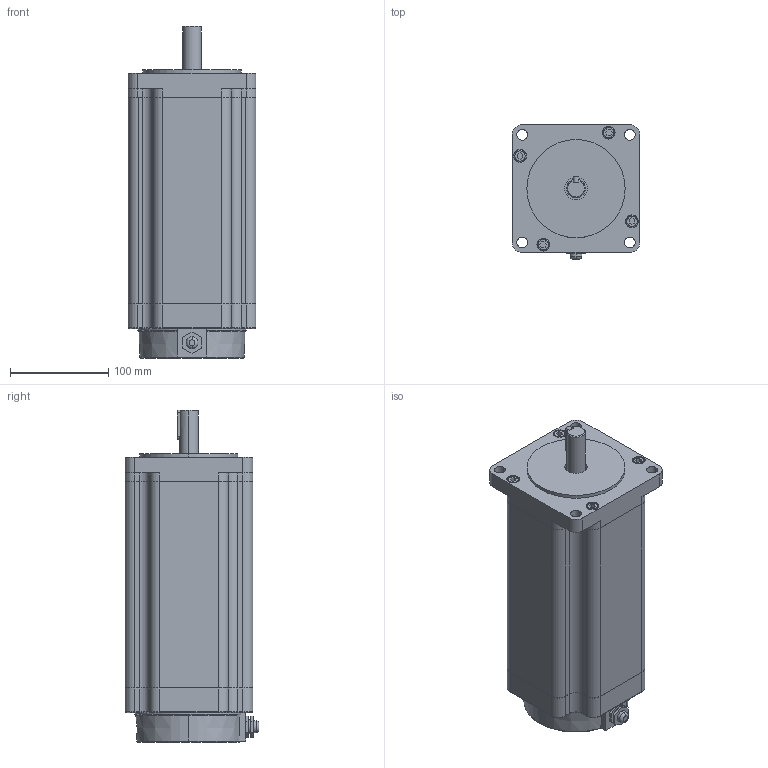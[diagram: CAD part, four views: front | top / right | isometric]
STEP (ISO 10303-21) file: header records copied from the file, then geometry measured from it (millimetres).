
FILE_DESCRIPTION (( 'STEP AP214' ), '1' );
FILE_NAME ('LS130C50-R8J50.STEP', '2021-09-07T07:10:09', ( '' ), ( '' ), 'SwSTEP 2.0', 'SolidWorks 2021', '' );
FILE_SCHEMA (( 'AUTOMOTIVE_DESIGN' ));
Length unit declared in the file: millimetre
Products named in the file (1): LS130C50-R8J50
Bounding box: 130 x 136.37 x 338 mm (x, y, z)
Volume: 4066499.2 mm3; surface area: 176772.6 mm2
Topology: 2 solids, 2 shells, 249 faces, 617 edges, 398 vertices
Faces by surface type: plane 116, cylinder 101, torus 27, cone 5
Entity records: 9696 total; most frequent: DIRECTION 1362, CARTESIAN_POINT 1326, ORIENTED_EDGE 1234, EDGE_CURVE 617, AXIS2_PLACEMENT_3D 502, VERTEX_POINT 398, VECTOR 358, LINE 358
